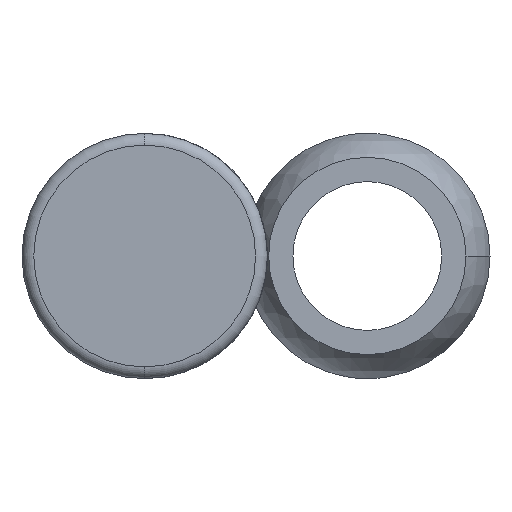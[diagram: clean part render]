
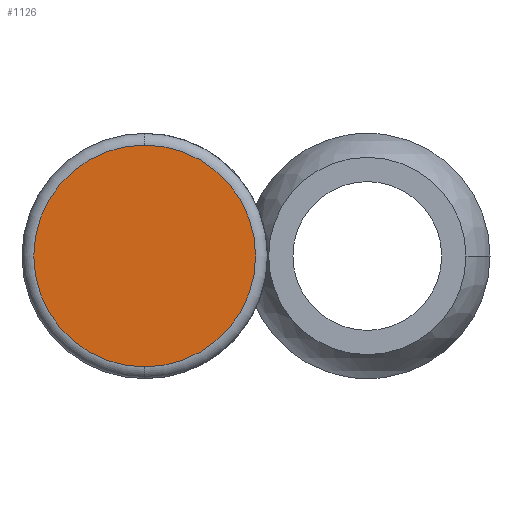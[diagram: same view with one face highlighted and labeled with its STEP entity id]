
A CAD part, front view. The second image highlights one B-rep face of the part: STEP entity #1126.
In plain terms, the highlighted planar face has unit normal (0, -1, 0).
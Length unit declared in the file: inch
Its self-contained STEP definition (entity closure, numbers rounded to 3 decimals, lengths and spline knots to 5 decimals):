
#4 = DIRECTION ( 'NONE',  ( 0., -1., 0. ) ) ;
#42 = CIRCLE ( 'NONE', #597, 0.2825 ) ;
#165 = AXIS2_PLACEMENT_3D ( 'NONE', #796, #256, #445 ) ;
#200 = ORIENTED_EDGE ( 'NONE', *, *, #339, .T. ) ;
#256 = DIRECTION ( 'NONE',  ( 0., 1., 0. ) ) ;
#294 = DIRECTION ( 'NONE',  ( 0., 0., 1. ) ) ;
#339 = EDGE_CURVE ( 'NONE', #831, #735, #42, .T. ) ;
#445 = DIRECTION ( 'NONE',  ( 0., 0., 1. ) ) ;
#482 = CARTESIAN_POINT ( 'NONE',  ( 0., -1.075, 0.2825 ) ) ;
#511 = CIRCLE ( 'NONE', #989, 0.2825 ) ;
#549 = ORIENTED_EDGE ( 'NONE', *, *, #749, .T. ) ;
#597 = AXIS2_PLACEMENT_3D ( 'NONE', #1133, #779, #1125 ) ;
#698 = CARTESIAN_POINT ( 'NONE',  ( 0., -1.075, -0.2825 ) ) ;
#735 = VERTEX_POINT ( 'NONE', #482 ) ;
#749 = EDGE_CURVE ( 'NONE', #735, #831, #511, .T. ) ;
#779 = DIRECTION ( 'NONE',  ( 0., -1., 0. ) ) ;
#793 = FACE_OUTER_BOUND ( 'NONE', #1119, .T. ) ;
#796 = CARTESIAN_POINT ( 'NONE',  ( 0., -1.075, 0. ) ) ;
#831 = VERTEX_POINT ( 'NONE', #698 ) ;
#989 = AXIS2_PLACEMENT_3D ( 'NONE', #1113, #4, #294 ) ;
#1113 = CARTESIAN_POINT ( 'NONE',  ( 0., -1.075, 0. ) ) ;
#1119 = EDGE_LOOP ( 'NONE', ( #549, #200 ) ) ;
#1125 = DIRECTION ( 'NONE',  ( 0., 0., 1. ) ) ;
#1126 = ADVANCED_FACE ( 'NONE', ( #793 ), #1156, .F. ) ;
#1133 = CARTESIAN_POINT ( 'NONE',  ( 0., -1.075, 0. ) ) ;
#1156 = PLANE ( 'NONE',  #165 ) ;
